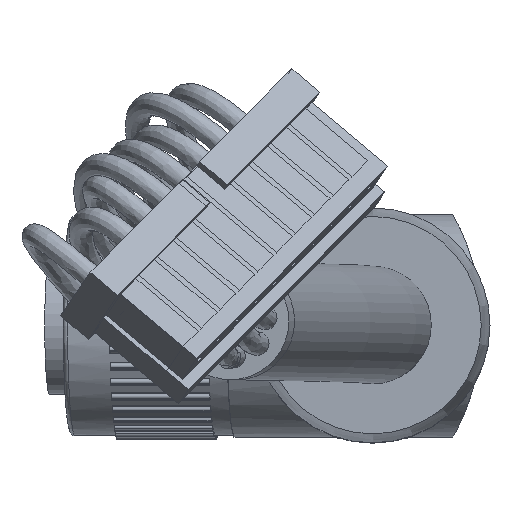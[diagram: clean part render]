
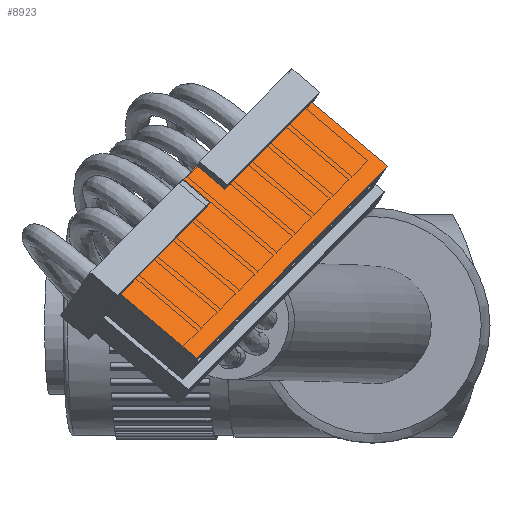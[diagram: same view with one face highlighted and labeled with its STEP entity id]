
A CAD part, top view. The second image highlights one B-rep face of the part: STEP entity #8923.
In plain terms, the highlighted planar face has unit normal (0.367, 0.546, 0.753).
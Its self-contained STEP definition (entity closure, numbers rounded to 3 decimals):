
#747=LINE('',#16356,#1506);
#753=LINE('',#16368,#1512);
#754=LINE('',#16370,#1513);
#795=LINE('',#16452,#1554);
#800=LINE('',#16464,#1559);
#803=LINE('',#16470,#1562);
#804=LINE('',#16471,#1563);
#805=LINE('',#16472,#1564);
#1506=VECTOR('',#12211,10.);
#1512=VECTOR('',#12219,10.);
#1513=VECTOR('',#12222,10.);
#1554=VECTOR('',#12307,10.);
#1559=VECTOR('',#12316,10.);
#1562=VECTOR('',#12321,10.);
#1563=VECTOR('',#12322,10.);
#1564=VECTOR('',#12323,10.);
#2304=FACE_OUTER_BOUND('',#2875,.T.);
#2875=EDGE_LOOP('',(#7606,#7607,#7608,#7609,#7610,#7611,#7612,#7613));
#4040=VERTEX_POINT('',#16352);
#4042=VERTEX_POINT('',#16355);
#4045=VERTEX_POINT('',#16362);
#4047=VERTEX_POINT('',#16366);
#4064=VERTEX_POINT('',#16446);
#4066=VERTEX_POINT('',#16450);
#4071=VERTEX_POINT('',#16463);
#4073=VERTEX_POINT('',#16469);
#5201=EDGE_CURVE('',#4042,#4040,#747,.T.);
#5207=EDGE_CURVE('',#4047,#4045,#753,.T.);
#5208=EDGE_CURVE('',#4045,#4040,#754,.T.);
#5249=EDGE_CURVE('',#4064,#4066,#795,.T.);
#5254=EDGE_CURVE('',#4064,#4071,#800,.T.);
#5257=EDGE_CURVE('',#4066,#4073,#803,.T.);
#5258=EDGE_CURVE('',#4073,#4042,#804,.T.);
#5259=EDGE_CURVE('',#4047,#4071,#805,.T.);
#7606=ORIENTED_EDGE('',*,*,#5249,.T.);
#7607=ORIENTED_EDGE('',*,*,#5257,.T.);
#7608=ORIENTED_EDGE('',*,*,#5258,.T.);
#7609=ORIENTED_EDGE('',*,*,#5201,.T.);
#7610=ORIENTED_EDGE('',*,*,#5208,.F.);
#7611=ORIENTED_EDGE('',*,*,#5207,.F.);
#7612=ORIENTED_EDGE('',*,*,#5259,.T.);
#7613=ORIENTED_EDGE('',*,*,#5254,.F.);
#7965=PLANE('',#9830);
#8923=ADVANCED_FACE('',(#2304),#7965,.F.);
#9830=AXIS2_PLACEMENT_3D('',#16468,#12319,#12320);
#12211=DIRECTION('',(-0.762,0.641,-0.094));
#12219=DIRECTION('',(-0.762,0.641,-0.094));
#12222=DIRECTION('',(0.534,0.539,-0.652));
#12307=DIRECTION('',(0.534,0.539,-0.652));
#12316=DIRECTION('',(-0.762,0.641,-0.094));
#12319=DIRECTION('center_axis',(-0.368,-0.546,-0.753));
#12320=DIRECTION('ref_axis',(-0.534,-0.539,0.652));
#12321=DIRECTION('',(-0.762,0.641,-0.094));
#12322=DIRECTION('',(-0.534,-0.539,0.652));
#12323=DIRECTION('',(-0.534,-0.539,0.652));
#16352=CARTESIAN_POINT('',(-7.473,6.573,147.623));
#16355=CARTESIAN_POINT('',(-6.293,5.579,147.768));
#16356=CARTESIAN_POINT('',(-6.293,5.579,147.768));
#16362=CARTESIAN_POINT('',(-8.22,5.819,148.535));
#16366=CARTESIAN_POINT('',(-7.04,4.825,148.68));
#16368=CARTESIAN_POINT('',(-7.04,4.825,148.68));
#16370=CARTESIAN_POINT('',(-7.66,6.384,147.851));
#16446=CARTESIAN_POINT('',(-7.487,-1.619,153.574));
#16450=CARTESIAN_POINT('',(0.628,6.571,143.669));
#16452=CARTESIAN_POINT('',(-1.401,4.523,146.145));
#16463=CARTESIAN_POINT('',(-10.724,1.107,153.177));
#16464=CARTESIAN_POINT('',(-7.106,-1.94,153.621));
#16468=CARTESIAN_POINT('Origin',(1.008,6.25,143.716));
#16469=CARTESIAN_POINT('',(-2.609,9.297,143.271));
#16470=CARTESIAN_POINT('',(1.008,6.25,143.716));
#16471=CARTESIAN_POINT('',(-10.844,0.985,153.323));
#16472=CARTESIAN_POINT('',(-10.844,0.985,153.323));
